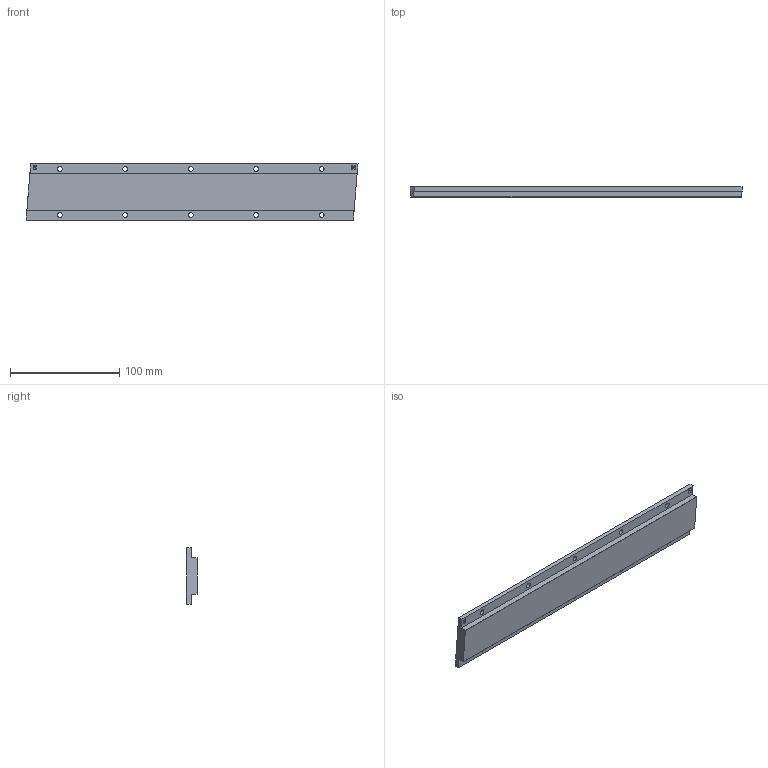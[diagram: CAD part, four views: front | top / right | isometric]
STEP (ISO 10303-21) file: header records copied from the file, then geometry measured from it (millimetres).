
FILE_DESCRIPTION( ( 'Unknown' ), '1' );
FILE_NAME( 'C:/Users/gyt/Desktop/电机制造图/DPD/DPD修改/官网3D/DPD56M300.stp', 'Unknown', ( 'Unknown' ), ( 'Unknown' ), 'PSStep 17.0.49', 'Unknown', ' ' );
FILE_SCHEMA( ( 'AUTOMOTIVE_DESIGN { 1 0 10303 214 1 1 1 1 }' ) );
Length unit declared in the file: millimetre
Products named in the file (1): 1
Bounding box: 304.37 x 9.6 x 52 mm (x, y, z)
Volume: 118542.8 mm3; surface area: 37957.7 mm2
Topology: 1 solids, 1 shells, 40 faces, 108 edges, 72 vertices
Faces by surface type: plane 22, cylinder 12, extrusion 6
Full cylindrical faces by diameter (mm): 4.5 x10
Entity records: 1815 total; most frequent: CARTESIAN_POINT 508, ORIENTED_EDGE 196, DIRECTION 166, EDGE_CURVE 98, EDGE_LOOP 72, VERTEX_POINT 72, AXIS2_PLACEMENT_3D 59, FACE_OUTER_BOUND 50
